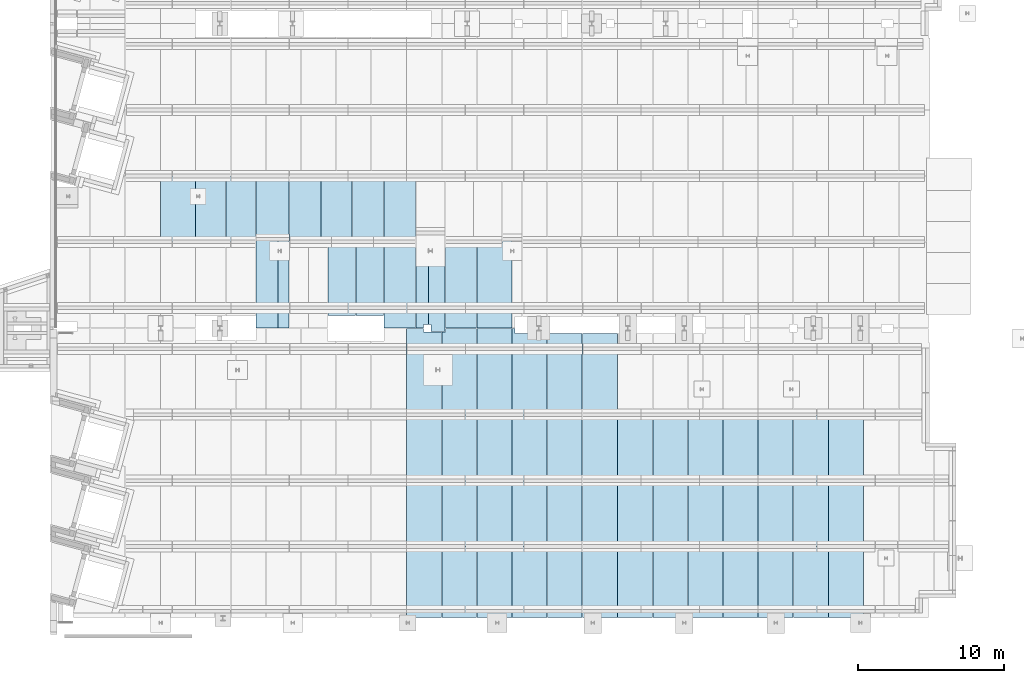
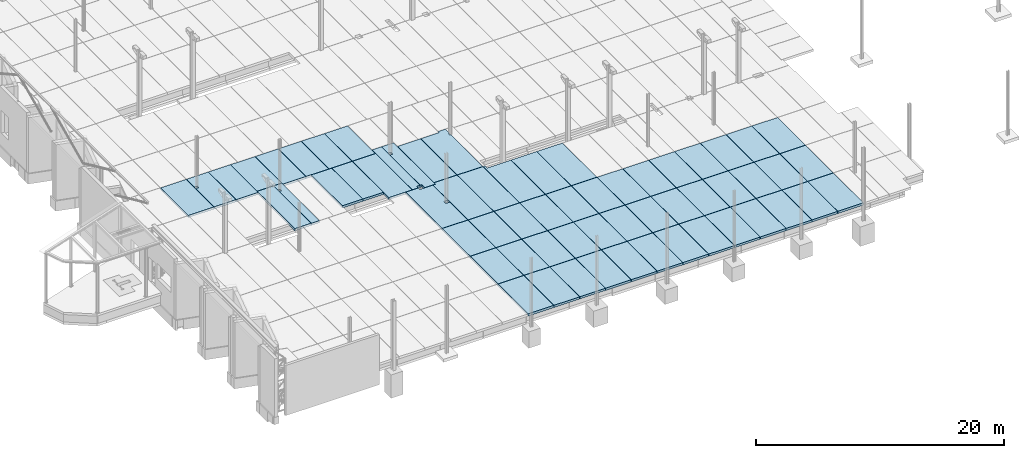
# One storey, part 47 of 59: 62 slabs.
"""IFC2X3 building model written with IfcOpenShell, lengths in metres."""

from ifc_helpers import new_model, entity, si_unit, converted_unit, derived_unit, frame, frame_2d, origin, origin_with_axes, place, context, subcontext, project, spatial, polyline, rectangle, outline, extrude, material, element, save


model = new_model("IFC2X3")

# Units and contexts
model_context = context("Model", 3, precision=1e-05, world=origin())
body_context = subcontext(model_context, "Body", "Model", "MODEL_VIEW")
ifc_project = project(units=[si_unit("LENGTHUNIT", "METRE"), si_unit("AREAUNIT", "SQUARE_METRE"), si_unit("VOLUMEUNIT", "CUBIC_METRE"), si_unit("MASSUNIT", "GRAM", prefix="KILO"), converted_unit("PLANEANGLEUNIT", "DEGREE", entity("IfcPlaneAngleMeasure", 0.0174532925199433), si_unit("PLANEANGLEUNIT", "RADIAN"), dimensions=[0, 0, 0, 0, 0, 0, 0]), derived_unit("THERMALTRANSMITTANCEUNIT", [(si_unit("POWERUNIT", "WATT"), 1), (si_unit("THERMODYNAMICTEMPERATUREUNIT", "KELVIN"), -1), (si_unit("LENGTHUNIT", "METRE"), -2)]), derived_unit("VOLUMETRICFLOWRATEUNIT", [(si_unit("LENGTHUNIT", "METRE"), 3), (converted_unit("TIMEUNIT", "hour", entity("IfcTimeMeasure", 3600.0), si_unit("TIMEUNIT", "SECOND"), dimensions=[0, 0, 1, 0, 0, 0, 0]), -1), (si_unit("LENGTHUNIT", "METRE"), -1)])], contexts=[model_context])

# Site, building, storey
site_placement = place(None, origin())
site = spatial("IfcSite", under=ifc_project, at=site_placement, Name="TWP_Speiseverteilzentrum SBW VZ II", CompositionType="ELEMENT")
building_placement = place(site_placement, origin())
building = spatial("IfcBuilding", under=site, at=building_placement, Name="Speiseverteilzentrum SBW VZ II", CompositionType="ELEMENT")
storey_placement = place(building_placement, frame((0.0, 0.0, 1.7307)))
storey = spatial("IfcBuildingStorey", under=building, at=storey_placement, Name="EG_Produktion_FFB", CompositionType="ELEMENT", Elevation=1.7307)

# Slabs
ifc_material_1 = material(Name="Stahlbetonfertigteil")
slab_1_placement = place(storey_placement, frame((33.5999999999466, 15.9100000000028, -0.47)))
element("IfcSlab", 1, at=slab_1_placement, inside=storey, material=ifc_material_1, Name="Stahlbetonfertigteilplatte", PredefinedType="BASESLAB", context=body_context, shape_type="SweptSolid", body=[
    extrude(rectangle(XDim=4.47999999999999, YDim=2.38, at=frame_2d((1.19, -2.23999999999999), x_axis=(0.0, -1.0))), frame((0.0, 4.47999999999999, 0.0), z_axis=(0.0, 0.0, 1.0), x_axis=(1.0, 0.0, 0.0)), (0.0, 0.0, 1.0), 0.22),
])
ifc_material_2 = material(Name="Stahlbetonfertigteil")
slab_2_placement = place(storey_placement, frame((35.9999999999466, 15.9100000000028, -0.47)))
element("IfcSlab", 2, at=slab_2_placement, inside=storey, material=ifc_material_2, Name="Stahlbetonfertigteilplatte", PredefinedType="BASESLAB", context=body_context, shape_type="SweptSolid", body=[
    extrude(rectangle(XDim=4.47999999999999, YDim=2.38, at=frame_2d((1.19, -2.23999999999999), x_axis=(0.0, -1.0))), frame((0.0, 4.47999999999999, 0.0), z_axis=(0.0, 0.0, 1.0), x_axis=(1.0, 0.0, 0.0)), (0.0, 0.0, 1.0), 0.22),
])
ifc_material_3 = material(Name="Stahlbetonfertigteil")
slab_3_placement = place(storey_placement, frame((33.5999999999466, 20.4100000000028, -0.47)))
element("IfcSlab", 3, at=slab_3_placement, inside=storey, material=ifc_material_3, Name="Stahlbetonfertigteilplatte", PredefinedType="BASESLAB", context=body_context, shape_type="SweptSolid", body=[
    extrude(rectangle(XDim=4.47999999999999, YDim=2.38, at=frame_2d((1.19, -2.23999999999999), x_axis=(0.0, -1.0))), frame((0.0, 4.47999999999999, 0.0), z_axis=(0.0, 0.0, 1.0), x_axis=(1.0, 0.0, 0.0)), (0.0, 0.0, 1.0), 0.22),
])
ifc_material_4 = material(Name="Stahlbetonfertigteil")
slab_4_placement = place(storey_placement, frame((35.9999999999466, 20.4100000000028, -0.47)))
element("IfcSlab", 4, at=slab_4_placement, inside=storey, material=ifc_material_4, Name="Stahlbetonfertigteilplatte", PredefinedType="BASESLAB", context=body_context, shape_type="SweptSolid", body=[
    extrude(rectangle(XDim=4.47999999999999, YDim=2.38, at=frame_2d((1.19, -2.23999999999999), x_axis=(0.0, -1.0))), frame((0.0, 4.47999999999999, 0.0), z_axis=(0.0, 0.0, 1.0), x_axis=(1.0, 0.0, 0.0)), (0.0, 0.0, 1.0), 0.22),
])
ifc_material_5 = material(Name="Stahlbetonfertigteil")
slab_5_placement = place(storey_placement, frame((38.3999999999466, 15.9100000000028, -0.47)))
element("IfcSlab", 5, at=slab_5_placement, inside=storey, material=ifc_material_5, Name="Stahlbetonfertigteilplatte", PredefinedType="BASESLAB", context=body_context, shape_type="SweptSolid", body=[
    extrude(rectangle(XDim=4.47999999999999, YDim=2.38, at=frame_2d((1.19, -2.23999999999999), x_axis=(0.0, -1.0))), frame((0.0, 4.47999999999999, 0.0), z_axis=(0.0, 0.0, 1.0), x_axis=(1.0, 0.0, 0.0)), (0.0, 0.0, 1.0), 0.22),
])
ifc_material_6 = material(Name="Stahlbetonfertigteil")
slab_6_placement = place(storey_placement, frame((40.7999999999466, 15.9100000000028, -0.47)))
element("IfcSlab", 6, at=slab_6_placement, inside=storey, material=ifc_material_6, Name="Stahlbetonfertigteilplatte", PredefinedType="BASESLAB", context=body_context, shape_type="SweptSolid", body=[
    extrude(rectangle(XDim=4.47999999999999, YDim=2.38, at=frame_2d((1.19, -2.23999999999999), x_axis=(0.0, -1.0))), frame((0.0, 4.47999999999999, 0.0), z_axis=(0.0, 0.0, 1.0), x_axis=(1.0, 0.0, 0.0)), (0.0, 0.0, 1.0), 0.22),
])
ifc_material_7 = material(Name="Stahlbetonfertigteil")
slab_7_placement = place(storey_placement, frame((38.3999999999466, 20.4100000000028, -0.47)))
element("IfcSlab", 7, at=slab_7_placement, inside=storey, material=ifc_material_7, Name="Stahlbetonfertigteilplatte", PredefinedType="BASESLAB", context=body_context, shape_type="SweptSolid", body=[
    extrude(rectangle(XDim=4.47999999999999, YDim=2.38, at=frame_2d((1.19, -2.23999999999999), x_axis=(0.0, -1.0))), frame((0.0, 4.47999999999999, 0.0), z_axis=(0.0, 0.0, 1.0), x_axis=(1.0, 0.0, 0.0)), (0.0, 0.0, 1.0), 0.22),
])
ifc_material_8 = material(Name="Stahlbetonfertigteil")
slab_8_placement = place(storey_placement, frame((40.7999999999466, 20.4100000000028, -0.47)))
element("IfcSlab", 8, at=slab_8_placement, inside=storey, material=ifc_material_8, Name="Stahlbetonfertigteilplatte", PredefinedType="BASESLAB", context=body_context, shape_type="SweptSolid", body=[
    extrude(rectangle(XDim=4.47999999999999, YDim=2.38, at=frame_2d((1.19, -2.23999999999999), x_axis=(0.0, -1.0))), frame((0.0, 4.47999999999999, 0.0), z_axis=(0.0, 0.0, 1.0), x_axis=(1.0, 0.0, 0.0)), (0.0, 0.0, 1.0), 0.22),
])
ifc_material_9 = material(Name="Stahlbetonfertigteil")
slab_9_placement = place(storey_placement, frame((43.1999999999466, 15.9100000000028, -0.47)))
element("IfcSlab", 9, at=slab_9_placement, inside=storey, material=ifc_material_9, Name="Stahlbetonfertigteilplatte", PredefinedType="BASESLAB", context=body_context, shape_type="SweptSolid", body=[
    extrude(rectangle(XDim=4.47999999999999, YDim=2.38, at=frame_2d((1.19, -2.23999999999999), x_axis=(0.0, -1.0))), frame((0.0, 4.47999999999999, 0.0), z_axis=(0.0, 0.0, 1.0), x_axis=(1.0, 0.0, 0.0)), (0.0, 0.0, 1.0), 0.22),
])
ifc_material_10 = material(Name="Stahlbetonfertigteil")
slab_10_placement = place(storey_placement, frame((45.5999999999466, 15.9100000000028, -0.47)))
element("IfcSlab", 10, at=slab_10_placement, inside=storey, material=ifc_material_10, Name="Stahlbetonfertigteilplatte", PredefinedType="BASESLAB", context=body_context, shape_type="SweptSolid", body=[
    extrude(rectangle(XDim=4.47999999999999, YDim=2.38, at=frame_2d((1.19, -2.23999999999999), x_axis=(0.0, -1.0))), frame((0.0, 4.47999999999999, 0.0), z_axis=(0.0, 0.0, 1.0), x_axis=(1.0, 0.0, 0.0)), (0.0, 0.0, 1.0), 0.22),
])
ifc_material_11 = material(Name="Stahlbetonfertigteil")
slab_11_placement = place(storey_placement, frame((43.1999999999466, 20.4100000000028, -0.47)))
element("IfcSlab", 11, at=slab_11_placement, inside=storey, material=ifc_material_11, Name="Stahlbetonfertigteilplatte", PredefinedType="BASESLAB", context=body_context, shape_type="SweptSolid", body=[
    extrude(rectangle(XDim=4.47999999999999, YDim=2.38, at=frame_2d((1.19, -2.23999999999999), x_axis=(0.0, -1.0))), frame((0.0, 4.47999999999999, 0.0), z_axis=(0.0, 0.0, 1.0), x_axis=(1.0, 0.0, 0.0)), (0.0, 0.0, 1.0), 0.22),
])
ifc_material_12 = material(Name="Stahlbetonfertigteil")
slab_12_placement = place(storey_placement, frame((45.5999999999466, 20.4100000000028, -0.47)))
element("IfcSlab", 12, at=slab_12_placement, inside=storey, material=ifc_material_12, Name="Stahlbetonfertigteilplatte", PredefinedType="BASESLAB", context=body_context, shape_type="SweptSolid", body=[
    extrude(rectangle(XDim=4.47999999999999, YDim=2.38, at=frame_2d((1.19, -2.23999999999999), x_axis=(0.0, -1.0))), frame((0.0, 4.47999999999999, 0.0), z_axis=(0.0, 0.0, 1.0), x_axis=(1.0, 0.0, 0.0)), (0.0, 0.0, 1.0), 0.22),
])
ifc_material_13 = material(Name="Stahlbetonfertigteil")
slab_13_placement = place(storey_placement, frame((47.9999999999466, 15.9100000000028, -0.47)))
element("IfcSlab", 13, at=slab_13_placement, inside=storey, material=ifc_material_13, Name="Stahlbetonfertigteilplatte", PredefinedType="BASESLAB", context=body_context, shape_type="SweptSolid", body=[
    extrude(rectangle(XDim=4.47999999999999, YDim=2.38, at=frame_2d((1.19, -2.23999999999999), x_axis=(0.0, -1.0))), frame((0.0, 4.47999999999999, 0.0), z_axis=(0.0, 0.0, 1.0), x_axis=(1.0, 0.0, 0.0)), (0.0, 0.0, 1.0), 0.22),
])
ifc_material_14 = material(Name="Stahlbetonfertigteil")
slab_14_placement = place(storey_placement, frame((50.3999999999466, 15.9100000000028, -0.47)))
element("IfcSlab", 14, at=slab_14_placement, inside=storey, material=ifc_material_14, Name="Stahlbetonfertigteilplatte", PredefinedType="BASESLAB", context=body_context, shape_type="SweptSolid", body=[
    extrude(rectangle(XDim=4.47999999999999, YDim=2.38, at=frame_2d((1.19, -2.23999999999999), x_axis=(0.0, -1.0))), frame((0.0, 4.47999999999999, 0.0), z_axis=(0.0, 0.0, 1.0), x_axis=(1.0, 0.0, 0.0)), (0.0, 0.0, 1.0), 0.22),
])
ifc_material_15 = material(Name="Stahlbetonfertigteil")
slab_15_placement = place(storey_placement, frame((52.7999999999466, 15.9100000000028, -0.47)))
element("IfcSlab", 15, at=slab_15_placement, inside=storey, material=ifc_material_15, Name="Stahlbetonfertigteilplatte", PredefinedType="BASESLAB", context=body_context, shape_type="SweptSolid", body=[
    extrude(rectangle(XDim=4.47999999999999, YDim=2.38, at=frame_2d((1.19, -2.23999999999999), x_axis=(0.0, -1.0))), frame((0.0, 4.47999999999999, 0.0), z_axis=(0.0, 0.0, 1.0), x_axis=(1.0, 0.0, 0.0)), (0.0, 0.0, 1.0), 0.22),
])
ifc_material_16 = material(Name="Stahlbetonfertigteil")
slab_16_placement = place(storey_placement, frame((47.9999999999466, 20.4100000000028, -0.47)))
element("IfcSlab", 16, at=slab_16_placement, inside=storey, material=ifc_material_16, Name="Stahlbetonfertigteilplatte", PredefinedType="BASESLAB", context=body_context, shape_type="SweptSolid", body=[
    extrude(rectangle(XDim=4.47999999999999, YDim=2.38, at=frame_2d((1.19, -2.23999999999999), x_axis=(0.0, -1.0))), frame((0.0, 4.47999999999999, 0.0), z_axis=(0.0, 0.0, 1.0), x_axis=(1.0, 0.0, 0.0)), (0.0, 0.0, 1.0), 0.22),
])
ifc_material_17 = material(Name="Stahlbetonfertigteil")
slab_17_placement = place(storey_placement, frame((50.3999999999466, 20.4100000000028, -0.47)))
element("IfcSlab", 17, at=slab_17_placement, inside=storey, material=ifc_material_17, Name="Stahlbetonfertigteilplatte", PredefinedType="BASESLAB", context=body_context, shape_type="SweptSolid", body=[
    extrude(rectangle(XDim=4.47999999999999, YDim=2.38, at=frame_2d((1.19, -2.23999999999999), x_axis=(0.0, -1.0))), frame((0.0, 4.47999999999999, 0.0), z_axis=(0.0, 0.0, 1.0), x_axis=(1.0, 0.0, 0.0)), (0.0, 0.0, 1.0), 0.22),
])
ifc_material_18 = material(Name="Stahlbetonfertigteil")
slab_18_placement = place(storey_placement, frame((52.7999999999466, 20.4100000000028, -0.47)))
element("IfcSlab", 18, at=slab_18_placement, inside=storey, material=ifc_material_18, Name="Stahlbetonfertigteilplatte", PredefinedType="BASESLAB", context=body_context, shape_type="SweptSolid", body=[
    extrude(rectangle(XDim=4.47999999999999, YDim=2.38, at=frame_2d((1.19, -2.23999999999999), x_axis=(0.0, -1.0))), frame((0.0, 4.47999999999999, 0.0), z_axis=(0.0, 0.0, 1.0), x_axis=(1.0, 0.0, 0.0)), (0.0, 0.0, 1.0), 0.22),
])
ifc_material_19 = material(Name="Stahlbetonfertigteil")
slab_19_placement = place(storey_placement, frame((55.1999999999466, 15.9100000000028, -0.47)))
element("IfcSlab", 19, at=slab_19_placement, inside=storey, material=ifc_material_19, Name="Stahlbetonfertigteilplatte", PredefinedType="BASESLAB", context=body_context, shape_type="SweptSolid", body=[
    extrude(rectangle(XDim=4.47999999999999, YDim=2.38, at=frame_2d((1.19, -2.23999999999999), x_axis=(0.0, -1.0))), frame((0.0, 4.47999999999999, 0.0), z_axis=(0.0, 0.0, 1.0), x_axis=(1.0, 0.0, 0.0)), (0.0, 0.0, 1.0), 0.22),
])
ifc_material_20 = material(Name="Stahlbetonfertigteil")
slab_20_placement = place(storey_placement, frame((57.5999999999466, 15.9100000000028, -0.47)))
element("IfcSlab", 20, at=slab_20_placement, inside=storey, material=ifc_material_20, Name="Stahlbetonfertigteilplatte", PredefinedType="BASESLAB", context=body_context, shape_type="SweptSolid", body=[
    extrude(rectangle(XDim=4.47999999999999, YDim=2.38, at=frame_2d((1.19, -2.23999999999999), x_axis=(0.0, -1.0))), frame((0.0, 4.47999999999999, 0.0), z_axis=(0.0, 0.0, 1.0), x_axis=(1.0, 0.0, 0.0)), (0.0, 0.0, 1.0), 0.22),
])
ifc_material_21 = material(Name="Stahlbetonfertigteil")
slab_21_placement = place(storey_placement, frame((55.1999999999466, 20.4100000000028, -0.47)))
element("IfcSlab", 21, at=slab_21_placement, inside=storey, material=ifc_material_21, Name="Stahlbetonfertigteilplatte", PredefinedType="BASESLAB", context=body_context, shape_type="SweptSolid", body=[
    extrude(rectangle(XDim=4.47999999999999, YDim=2.38, at=frame_2d((1.19, -2.23999999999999), x_axis=(0.0, -1.0))), frame((0.0, 4.47999999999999, 0.0), z_axis=(0.0, 0.0, 1.0), x_axis=(1.0, 0.0, 0.0)), (0.0, 0.0, 1.0), 0.22),
])
ifc_material_22 = material(Name="Stahlbetonfertigteil")
slab_22_placement = place(storey_placement, frame((57.5999999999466, 20.4100000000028, -0.47)))
element("IfcSlab", 22, at=slab_22_placement, inside=storey, material=ifc_material_22, Name="Stahlbetonfertigteilplatte", PredefinedType="BASESLAB", context=body_context, shape_type="SweptSolid", body=[
    extrude(rectangle(XDim=4.47999999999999, YDim=2.38, at=frame_2d((1.19, -2.23999999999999), x_axis=(0.0, -1.0))), frame((0.0, 4.47999999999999, 0.0), z_axis=(0.0, 0.0, 1.0), x_axis=(1.0, 0.0, 0.0)), (0.0, 0.0, 1.0), 0.22),
])
ifc_material_23 = material(Name="Stahlbetonfertigteil")
slab_23_placement = place(storey_placement, frame((59.9999999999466, 15.9100000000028, -0.47)))
element("IfcSlab", 23, at=slab_23_placement, inside=storey, material=ifc_material_23, Name="Stahlbetonfertigteilplatte", PredefinedType="BASESLAB", context=body_context, shape_type="SweptSolid", body=[
    extrude(rectangle(XDim=4.47999999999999, YDim=2.38, at=frame_2d((1.19, -2.23999999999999), x_axis=(0.0, -1.0))), frame((0.0, 4.47999999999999, 0.0), z_axis=(0.0, 0.0, 1.0), x_axis=(1.0, 0.0, 0.0)), (0.0, 0.0, 1.0), 0.22),
])
ifc_material_24 = material(Name="Stahlbetonfertigteil")
slab_24_placement = place(storey_placement, frame((62.3999999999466, 15.9100000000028, -0.47)))
element("IfcSlab", 24, at=slab_24_placement, inside=storey, material=ifc_material_24, Name="Stahlbetonfertigteilplatte", PredefinedType="BASESLAB", context=body_context, shape_type="SweptSolid", body=[
    extrude(rectangle(XDim=4.47999999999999, YDim=2.38, at=frame_2d((1.19, -2.23999999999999), x_axis=(0.0, -1.0))), frame((0.0, 4.47999999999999, 0.0), z_axis=(0.0, 0.0, 1.0), x_axis=(1.0, 0.0, 0.0)), (0.0, 0.0, 1.0), 0.22),
])
ifc_material_25 = material(Name="Stahlbetonfertigteil")
slab_25_placement = place(storey_placement, frame((59.9999999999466, 20.4100000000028, -0.47)))
element("IfcSlab", 25, at=slab_25_placement, inside=storey, material=ifc_material_25, Name="Stahlbetonfertigteilplatte", PredefinedType="BASESLAB", context=body_context, shape_type="SweptSolid", body=[
    extrude(rectangle(XDim=4.47999999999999, YDim=2.38, at=frame_2d((1.19, -2.23999999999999), x_axis=(0.0, -1.0))), frame((0.0, 4.47999999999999, 0.0), z_axis=(0.0, 0.0, 1.0), x_axis=(1.0, 0.0, 0.0)), (0.0, 0.0, 1.0), 0.22),
])
ifc_material_26 = material(Name="Stahlbetonfertigteil")
slab_26_placement = place(storey_placement, frame((62.3999999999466, 20.4100000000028, -0.47)))
element("IfcSlab", 26, at=slab_26_placement, inside=storey, material=ifc_material_26, Name="Stahlbetonfertigteilplatte", PredefinedType="BASESLAB", context=body_context, shape_type="SweptSolid", body=[
    extrude(rectangle(XDim=4.47999999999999, YDim=2.38, at=frame_2d((1.19, -2.23999999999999), x_axis=(0.0, -1.0))), frame((0.0, 4.47999999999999, 0.0), z_axis=(0.0, 0.0, 1.0), x_axis=(1.0, 0.0, 0.0)), (0.0, 0.0, 1.0), 0.22),
])
ifc_material_27 = material(Name="Stahlbetonfertigteil")
slab_27_placement = place(storey_placement, frame((16.7999999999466, 36.7100000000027, -0.47)))
element("IfcSlab", 27, at=slab_27_placement, inside=storey, material=ifc_material_27, Name="Stahlbetonfertigteilplatte", PredefinedType="BASESLAB", context=body_context, shape_type="SweptSolid", body=[
    extrude(rectangle(XDim=4.47999999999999, YDim=2.38, at=frame_2d((1.19, -2.23999999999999), x_axis=(0.0, -1.0))), frame((0.0, 4.47999999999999, 0.0), z_axis=(0.0, 0.0, 1.0), x_axis=(1.0, 0.0, 0.0)), (0.0, 0.0, 1.0), 0.22),
])
ifc_material_28 = material(Name="Stahlbetonfertigteil")
slab_28_placement = place(storey_placement, frame((43.1999999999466, 24.9100000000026, -0.47)))
element("IfcSlab", 28, at=slab_28_placement, inside=storey, material=ifc_material_28, Name="Stahlbetonfertigteilplatte", PredefinedType="BASESLAB", context=body_context, shape_type="SweptSolid", body=[
    extrude(rectangle(XDim=5.53999999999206, YDim=2.38, at=frame_2d((1.19, -2.76999999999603), x_axis=(0.0, -1.0))), frame((0.0, 5.53999999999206, 0.0), z_axis=(0.0, 0.0, 1.0), x_axis=(1.0, 0.0, 0.0)), (0.0, 0.0, 1.0), 0.22),
])
ifc_material_29 = material(Name="Stahlbetonfertigteil")
slab_29_placement = place(storey_placement, frame((45.5999999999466, 24.9100000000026, -0.47)))
element("IfcSlab", 29, at=slab_29_placement, inside=storey, material=ifc_material_29, Name="Stahlbetonfertigteilplatte", PredefinedType="BASESLAB", context=body_context, shape_type="SweptSolid", body=[
    extrude(rectangle(XDim=5.53999999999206, YDim=2.38, at=frame_2d((1.19, -2.76999999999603), x_axis=(0.0, -1.0))), frame((0.0, 5.53999999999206, 0.0), z_axis=(0.0, 0.0, 1.0), x_axis=(1.0, 0.0, 0.0)), (0.0, 0.0, 1.0), 0.22),
])
ifc_material_30 = material(Name="Stahlbetonfertigteil")
slab_30_placement = place(storey_placement, frame((40.7999999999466, 24.9100000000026, -0.47)))
element("IfcSlab", 30, at=slab_30_placement, inside=storey, material=ifc_material_30, Name="Stahlbetonfertigteilplatte", PredefinedType="BASESLAB", context=body_context, shape_type="SweptSolid", body=[
    extrude(outline(polyline([(0.200000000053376, 5.87999999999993), (0.0, 5.87999999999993), (0.0, 0.0), (2.38, 0.0), (2.38, 5.53999999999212), (0.200000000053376, 5.53999999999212), (0.200000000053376, 5.87999999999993)])), origin_with_axes(), (0.0, 0.0, 1.0), 0.22),
])
ifc_material_31 = material(Name="Stahlbetonfertigteil")
slab_31_placement = place(storey_placement, frame((38.3999999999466, 24.9100000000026, -0.47)))
element("IfcSlab", 31, at=slab_31_placement, inside=storey, material=ifc_material_31, Name="Stahlbetonfertigteilplatte", PredefinedType="BASESLAB", context=body_context, shape_type="SweptSolid", body=[
    extrude(rectangle(XDim=5.87999999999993, YDim=2.38, at=frame_2d((1.19, -2.93999999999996), x_axis=(0.0, -1.0))), frame((0.0, 5.87999999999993, 0.0), z_axis=(0.0, 0.0, 1.0), x_axis=(1.0, 0.0, 0.0)), (0.0, 0.0, 1.0), 0.22),
])
ifc_material_32 = material(Name="Stahlbetonfertigteil")
slab_32_placement = place(storey_placement, frame((52.7999999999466, 11.0500000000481, -0.47)))
element("IfcSlab", 32, at=slab_32_placement, inside=storey, material=ifc_material_32, Name="Stahlbetonfertigteilplatte", PredefinedType="BASESLAB", context=body_context, shape_type="SweptSolid", body=[
    extrude(rectangle(XDim=4.83999999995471, YDim=2.38, at=frame_2d((1.19, -2.41999999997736), x_axis=(0.0, -1.0))), frame((0.0, 4.83999999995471, 0.0), z_axis=(0.0, 0.0, 1.0), x_axis=(1.0, 0.0, 0.0)), (0.0, 0.0, 1.0), 0.22),
])
ifc_material_33 = material(Name="Stahlbetonfertigteil")
slab_33_placement = place(storey_placement, frame((50.3999999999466, 11.0500000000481, -0.47)))
element("IfcSlab", 33, at=slab_33_placement, inside=storey, material=ifc_material_33, Name="Stahlbetonfertigteilplatte", PredefinedType="BASESLAB", context=body_context, shape_type="SweptSolid", body=[
    extrude(rectangle(XDim=4.83999999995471, YDim=2.38, at=frame_2d((1.19, -2.41999999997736), x_axis=(0.0, -1.0))), frame((0.0, 4.83999999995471, 0.0), z_axis=(0.0, 0.0, 1.0), x_axis=(1.0, 0.0, 0.0)), (0.0, 0.0, 1.0), 0.22),
])
ifc_material_34 = material(Name="Stahlbetonfertigteil")
slab_34_placement = place(storey_placement, frame((47.9999999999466, 11.0500000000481, -0.47)))
element("IfcSlab", 34, at=slab_34_placement, inside=storey, material=ifc_material_34, Name="Stahlbetonfertigteilplatte", PredefinedType="BASESLAB", context=body_context, shape_type="SweptSolid", body=[
    extrude(rectangle(XDim=4.83999999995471, YDim=2.38, at=frame_2d((1.19, -2.41999999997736), x_axis=(0.0, -1.0))), frame((0.0, 4.83999999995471, 0.0), z_axis=(0.0, 0.0, 1.0), x_axis=(1.0, 0.0, 0.0)), (0.0, 0.0, 1.0), 0.22),
])
ifc_material_35 = material(Name="Stahlbetonfertigteil")
slab_35_placement = place(storey_placement, frame((45.5999999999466, 11.0500000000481, -0.47)))
element("IfcSlab", 35, at=slab_35_placement, inside=storey, material=ifc_material_35, Name="Stahlbetonfertigteilplatte", PredefinedType="BASESLAB", context=body_context, shape_type="SweptSolid", body=[
    extrude(rectangle(XDim=4.83999999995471, YDim=2.38, at=frame_2d((1.19, -2.41999999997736), x_axis=(0.0, -1.0))), frame((0.0, 4.83999999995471, 0.0), z_axis=(0.0, 0.0, 1.0), x_axis=(1.0, 0.0, 0.0)), (0.0, 0.0, 1.0), 0.22),
])
ifc_material_36 = material(Name="Stahlbetonfertigteil")
slab_36_placement = place(storey_placement, frame((43.1999999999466, 11.0500000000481, -0.47)))
element("IfcSlab", 36, at=slab_36_placement, inside=storey, material=ifc_material_36, Name="Stahlbetonfertigteilplatte", PredefinedType="BASESLAB", context=body_context, shape_type="SweptSolid", body=[
    extrude(rectangle(XDim=4.83999999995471, YDim=2.38, at=frame_2d((1.19, -2.41999999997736), x_axis=(0.0, -1.0))), frame((0.0, 4.83999999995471, 0.0), z_axis=(0.0, 0.0, 1.0), x_axis=(1.0, 0.0, 0.0)), (0.0, 0.0, 1.0), 0.22),
])
ifc_material_37 = material(Name="Stahlbetonfertigteil")
slab_37_placement = place(storey_placement, frame((40.7999999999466, 11.0500000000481, -0.47)))
element("IfcSlab", 37, at=slab_37_placement, inside=storey, material=ifc_material_37, Name="Stahlbetonfertigteilplatte", PredefinedType="BASESLAB", context=body_context, shape_type="SweptSolid", body=[
    extrude(rectangle(XDim=4.83999999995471, YDim=2.38, at=frame_2d((1.19, -2.41999999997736), x_axis=(0.0, -1.0))), frame((0.0, 4.83999999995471, 0.0), z_axis=(0.0, 0.0, 1.0), x_axis=(1.0, 0.0, 0.0)), (0.0, 0.0, 1.0), 0.22),
])
ifc_material_38 = material(Name="Stahlbetonfertigteil")
slab_38_placement = place(storey_placement, frame((38.3999999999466, 11.0500000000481, -0.47)))
element("IfcSlab", 38, at=slab_38_placement, inside=storey, material=ifc_material_38, Name="Stahlbetonfertigteilplatte", PredefinedType="BASESLAB", context=body_context, shape_type="SweptSolid", body=[
    extrude(rectangle(XDim=4.83999999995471, YDim=2.38, at=frame_2d((1.19, -2.41999999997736), x_axis=(0.0, -1.0))), frame((0.0, 4.83999999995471, 0.0), z_axis=(0.0, 0.0, 1.0), x_axis=(1.0, 0.0, 0.0)), (0.0, 0.0, 1.0), 0.22),
])
ifc_material_39 = material(Name="Stahlbetonfertigteil")
slab_39_placement = place(storey_placement, frame((35.9999999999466, 11.0500000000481, -0.47)))
element("IfcSlab", 39, at=slab_39_placement, inside=storey, material=ifc_material_39, Name="Stahlbetonfertigteilplatte", PredefinedType="BASESLAB", context=body_context, shape_type="SweptSolid", body=[
    extrude(rectangle(XDim=4.83999999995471, YDim=2.38, at=frame_2d((1.19, -2.41999999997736), x_axis=(0.0, -1.0))), frame((0.0, 4.83999999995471, 0.0), z_axis=(0.0, 0.0, 1.0), x_axis=(1.0, 0.0, 0.0)), (0.0, 0.0, 1.0), 0.22),
])
ifc_material_40 = material(Name="Stahlbetonfertigteil")
slab_40_placement = place(storey_placement, frame((33.5999999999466, 11.0500000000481, -0.47)))
element("IfcSlab", 40, at=slab_40_placement, inside=storey, material=ifc_material_40, Name="Stahlbetonfertigteilplatte", PredefinedType="BASESLAB", context=body_context, shape_type="SweptSolid", body=[
    extrude(rectangle(XDim=4.83999999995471, YDim=2.38, at=frame_2d((1.19, -2.41999999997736), x_axis=(0.0, -1.0))), frame((0.0, 4.83999999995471, 0.0), z_axis=(0.0, 0.0, 1.0), x_axis=(1.0, 0.0, 0.0)), (0.0, 0.0, 1.0), 0.22),
])
ifc_material_41 = material(Name="Stahlbetonfertigteil")
slab_41_placement = place(storey_placement, frame((62.3999999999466, 11.0500000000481, -0.47)))
element("IfcSlab", 41, at=slab_41_placement, inside=storey, material=ifc_material_41, Name="Stahlbetonfertigteilplatte", PredefinedType="BASESLAB", context=body_context, shape_type="SweptSolid", body=[
    extrude(rectangle(XDim=4.83999999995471, YDim=2.38, at=frame_2d((1.19, -2.41999999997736), x_axis=(0.0, -1.0))), frame((0.0, 4.83999999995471, 0.0), z_axis=(0.0, 0.0, 1.0), x_axis=(1.0, 0.0, 0.0)), (0.0, 0.0, 1.0), 0.22),
])
ifc_material_42 = material(Name="Stahlbetonfertigteil")
slab_42_placement = place(storey_placement, frame((59.9999999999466, 11.0500000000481, -0.47)))
element("IfcSlab", 42, at=slab_42_placement, inside=storey, material=ifc_material_42, Name="Stahlbetonfertigteilplatte", PredefinedType="BASESLAB", context=body_context, shape_type="SweptSolid", body=[
    extrude(rectangle(XDim=4.83999999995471, YDim=2.38, at=frame_2d((1.19, -2.41999999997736), x_axis=(0.0, -1.0))), frame((0.0, 4.83999999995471, 0.0), z_axis=(0.0, 0.0, 1.0), x_axis=(1.0, 0.0, 0.0)), (0.0, 0.0, 1.0), 0.22),
])
ifc_material_43 = material(Name="Stahlbetonfertigteil")
slab_43_placement = place(storey_placement, frame((57.5999999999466, 11.0500000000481, -0.47)))
element("IfcSlab", 43, at=slab_43_placement, inside=storey, material=ifc_material_43, Name="Stahlbetonfertigteilplatte", PredefinedType="BASESLAB", context=body_context, shape_type="SweptSolid", body=[
    extrude(rectangle(XDim=4.83999999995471, YDim=2.38, at=frame_2d((1.19, -2.41999999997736), x_axis=(0.0, -1.0))), frame((0.0, 4.83999999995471, 0.0), z_axis=(0.0, 0.0, 1.0), x_axis=(1.0, 0.0, 0.0)), (0.0, 0.0, 1.0), 0.22),
])
ifc_material_44 = material(Name="Stahlbetonfertigteil")
slab_44_placement = place(storey_placement, frame((55.1999999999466, 11.0500000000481, -0.47)))
element("IfcSlab", 44, at=slab_44_placement, inside=storey, material=ifc_material_44, Name="Stahlbetonfertigteilplatte", PredefinedType="BASESLAB", context=body_context, shape_type="SweptSolid", body=[
    extrude(rectangle(XDim=4.83999999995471, YDim=2.38, at=frame_2d((1.19, -2.41999999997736), x_axis=(0.0, -1.0))), frame((0.0, 4.83999999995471, 0.0), z_axis=(0.0, 0.0, 1.0), x_axis=(1.0, 0.0, 0.0)), (0.0, 0.0, 1.0), 0.22),
])
ifc_material_45 = material(Name="Stahlbetonfertigteil")
slab_45_placement = place(storey_placement, frame((33.5999999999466, 24.9100000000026, -0.47)))
element("IfcSlab", 45, at=slab_45_placement, inside=storey, material=ifc_material_45, Name="Stahlbetonfertigteilplatte", PredefinedType="BASESLAB", context=body_context, shape_type="SweptSolid", body=[
    extrude(outline(polyline([(1.97975651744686, 3.20992869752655), (2.38, 3.20992869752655), (2.38, 5.63999999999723), (1.15000000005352, 5.63999999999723), (1.15000000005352, 5.87999999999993), (0.0, 5.87999999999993), (0.0, 0.0), (2.38, 0.0), (2.38, 2.88992869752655), (1.97975651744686, 2.88992869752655), (1.97975651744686, 3.20992869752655)])), origin_with_axes(), (0.0, 0.0, 1.0), 0.22),
])
ifc_material_46 = material(Name="Stahlbetonfertigteil")
slab_46_placement = place(storey_placement, frame((28.22, 31.6772526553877, -0.47)))
element("IfcSlab", 46, at=slab_46_placement, inside=storey, material=ifc_material_46, Name="Stahlbetonfertigteilplatte", PredefinedType="BASESLAB", context=body_context, shape_type="SweptSolid", body=[
    extrude(rectangle(XDim=5.0127473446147, YDim=1.89500000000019, at=frame_2d((-0.947500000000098, 2.50637367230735), x_axis=(0.0, 1.0))), frame((1.89500000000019, 0.0, 0.0), z_axis=(0.0, 0.0, 1.0), x_axis=(1.0, 0.0, 0.0)), (0.0, 0.0, 1.0), 0.22),
])
ifc_material_47 = material(Name="Stahlbetonfertigteil")
slab_47_placement = place(storey_placement, frame((30.1350000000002, 31.6772526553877, -0.47)))
element("IfcSlab", 47, at=slab_47_placement, inside=storey, material=ifc_material_47, Name="Stahlbetonfertigteilplatte", PredefinedType="BASESLAB", context=body_context, shape_type="SweptSolid", body=[
    extrude(rectangle(XDim=5.0127473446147, YDim=1.89500000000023, at=frame_2d((0.947500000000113, -2.50637367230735), x_axis=(0.0, -1.0))), frame((0.0, 5.0127473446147, 0.0), z_axis=(0.0, 0.0, 1.0), x_axis=(1.0, 0.0, 0.0)), (0.0, 0.0, 1.0), 0.22),
])
ifc_material_48 = material(Name="Stahlbetonfertigteil")
slab_48_placement = place(storey_placement, frame((24.8298606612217, 30.8100000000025, -0.47)))
element("IfcSlab", 48, at=slab_48_placement, inside=storey, material=ifc_material_48, Name="Stahlbetonfertigteilplatte", PredefinedType="BASESLAB", context=body_context, shape_type="SweptSolid", body=[
    extrude(outline(polyline([(0.0, 0.0), (0.750139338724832, 0.0), (0.750139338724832, 6.05484785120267), (0.0, 6.05484785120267), (0.0, 5.38984785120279), (0.21, 5.38984785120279), (0.21, 5.14984785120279), (0.0, 5.14984785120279), (0.0, 0.0)])), origin_with_axes(), (0.0, 0.0, 1.0), 0.22),
])
ifc_material_49 = material(Name="Stahlbetonfertigteil")
slab_49_placement = place(storey_placement, frame((23.3011877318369, 36.8848478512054, -0.47)))
element("IfcSlab", 49, at=slab_49_placement, inside=storey, material=ifc_material_49, Name="Stahlbetonfertigteilplatte", PredefinedType="BASESLAB", context=body_context, shape_type="SweptSolid", body=[
    extrude(rectangle(XDim=4.30515214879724, YDim=2.2788122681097, at=frame_2d((1.13940613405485, -2.15257607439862), x_axis=(0.0, -1.0))), frame((0.0, 4.30515214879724, 0.0), z_axis=(0.0, 0.0, 1.0), x_axis=(1.0, 0.0, 0.0)), (0.0, 0.0, 1.0), 0.22),
])
ifc_material_50 = material(Name="Stahlbetonfertigteil")
slab_50_placement = place(storey_placement, frame((23.3011877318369, 30.8100000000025, -0.47)))
element("IfcSlab", 50, at=slab_50_placement, inside=storey, material=ifc_material_50, Name="Stahlbetonfertigteilplatte", PredefinedType="BASESLAB", context=body_context, shape_type="SweptSolid", body=[
    extrude(rectangle(XDim=6.05484785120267, YDim=1.50867292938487, at=frame_2d((0.754336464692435, -3.02742392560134), x_axis=(0.0, -1.0))), frame((0.0, 6.05484785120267, 0.0), z_axis=(0.0, 0.0, 1.0), x_axis=(1.0, 0.0, 0.0)), (0.0, 0.0, 1.0), 0.22),
])
ifc_material_51 = material(Name="Stahlbetonfertigteil")
slab_51_placement = place(storey_placement, frame((21.2505938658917, 36.7100000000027, -0.47)))
element("IfcSlab", 51, at=slab_51_placement, inside=storey, material=ifc_material_51, Name="Stahlbetonfertigteilplatte", PredefinedType="BASESLAB", context=body_context, shape_type="SweptSolid", body=[
    extrude(rectangle(XDim=4.47999999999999, YDim=2.03059386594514, at=frame_2d((1.01529693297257, -2.23999999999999), x_axis=(0.0, -1.0))), frame((0.0, 4.47999999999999, 0.0), z_axis=(0.0, 0.0, 1.0), x_axis=(1.0, 0.0, 0.0)), (0.0, 0.0, 1.0), 0.22),
])
ifc_material_52 = material(Name="Stahlbetonfertigteil")
slab_52_placement = place(storey_placement, frame((19.1999999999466, 36.7100000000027, -0.47)))
element("IfcSlab", 52, at=slab_52_placement, inside=storey, material=ifc_material_52, Name="Stahlbetonfertigteilplatte", PredefinedType="BASESLAB", context=body_context, shape_type="SweptSolid", body=[
    extrude(outline(polyline([(0.0, 3.2098118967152), (0.279913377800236, 3.2098118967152), (0.279913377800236, 2.9698118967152), (0.0, 2.9698118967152), (0.0, 0.0), (2.03059386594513, 0.0), (2.03059386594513, 4.47999999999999), (0.0, 4.47999999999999), (0.0, 3.2098118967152)])), origin_with_axes(), (0.0, 0.0, 1.0), 0.22),
])
ifc_material_53 = material(Name="Stahlbetonfertigteil")
slab_53_placement = place(storey_placement, frame((34.2247583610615, 30.8100000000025, -0.47)))
element("IfcSlab", 53, at=slab_53_placement, inside=storey, material=ifc_material_53, Name="Stahlbetonfertigteilplatte", PredefinedType="BASESLAB", context=body_context, shape_type="SweptSolid", body=[
    extrude(outline(polyline([(0.855, 6.47984785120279), (0.0, 6.47984785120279), (0.0, 0.0), (0.52524163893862, 0.0), (0.52524163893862, 0.239999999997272), (0.855, 0.239999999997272), (0.855, 6.47984785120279)])), origin_with_axes(), (0.0, 0.0, 1.0), 0.22),
])
ifc_material_54 = material(Name="Stahlbetonfertigteil")
slab_54_placement = place(storey_placement, frame((32.0500000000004, 30.8100000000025, -0.47)))
element("IfcSlab", 54, at=slab_54_placement, inside=storey, material=ifc_material_54, Name="Stahlbetonfertigteilplatte", PredefinedType="BASESLAB", context=body_context, shape_type="SweptSolid", body=[
    extrude(rectangle(XDim=5.87999999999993, YDim=2.15475836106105, at=frame_2d((-1.07737918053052, 2.93999999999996), x_axis=(0.0, 1.0))), frame((2.15475836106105, 0.0, 0.0), z_axis=(0.0, 0.0, 1.0), x_axis=(1.0, 0.0, 0.0)), (0.0, 0.0, 1.0), 0.22),
])
ifc_material_55 = material(Name="Stahlbetonfertigteil")
slab_55_placement = place(storey_placement, frame((25.5999999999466, 36.7100000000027, -0.47)))
element("IfcSlab", 55, at=slab_55_placement, inside=storey, material=ifc_material_55, Name="Stahlbetonfertigteilplatte", PredefinedType="BASESLAB", context=body_context, shape_type="SweptSolid", body=[
    extrude(rectangle(XDim=4.47999999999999, YDim=2.13500000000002, at=frame_2d((1.06750000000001, -2.23999999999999), x_axis=(0.0, -1.0))), frame((0.0, 4.47999999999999, 0.0), z_axis=(0.0, 0.0, 1.0), x_axis=(1.0, 0.0, 0.0)), (0.0, 0.0, 1.0), 0.22),
])
ifc_material_56 = material(Name="Stahlbetonfertigteil")
slab_56_placement = place(storey_placement, frame((27.7549999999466, 36.7100000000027, -0.47)))
element("IfcSlab", 56, at=slab_56_placement, inside=storey, material=ifc_material_56, Name="Stahlbetonfertigteilplatte", PredefinedType="BASESLAB", context=body_context, shape_type="SweptSolid", body=[
    extrude(rectangle(XDim=4.47999999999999, YDim=2.115, at=frame_2d((1.0575, -2.23999999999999), x_axis=(0.0, -1.0))), frame((0.0, 4.47999999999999, 0.0), z_axis=(0.0, 0.0, 1.0), x_axis=(1.0, 0.0, 0.0)), (0.0, 0.0, 1.0), 0.22),
])
ifc_material_57 = material(Name="Stahlbetonfertigteil")
slab_57_placement = place(storey_placement, frame((29.8899999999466, 36.7100000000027, -0.47)))
element("IfcSlab", 57, at=slab_57_placement, inside=storey, material=ifc_material_57, Name="Stahlbetonfertigteilplatte", PredefinedType="BASESLAB", context=body_context, shape_type="SweptSolid", body=[
    extrude(rectangle(XDim=4.47999999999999, YDim=2.135, at=frame_2d((1.0675, -2.23999999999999), x_axis=(0.0, -1.0))), frame((0.0, 4.47999999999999, 0.0), z_axis=(0.0, 0.0, 1.0), x_axis=(1.0, 0.0, 0.0)), (0.0, 0.0, 1.0), 0.22),
])
ifc_material_58 = material(Name="Stahlbetonfertigteil")
slab_58_placement = place(storey_placement, frame((32.0449999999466, 36.7100000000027, -0.47)))
element("IfcSlab", 58, at=slab_58_placement, inside=storey, material=ifc_material_58, Name="Stahlbetonfertigteilplatte", PredefinedType="BASESLAB", context=body_context, shape_type="SweptSolid", body=[
    extrude(rectangle(XDim=4.47999999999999, YDim=2.1597583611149, at=frame_2d((1.07987918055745, -2.23999999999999), x_axis=(0.0, -1.0))), frame((0.0, 4.47999999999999, 0.0), z_axis=(0.0, 0.0, 1.0), x_axis=(1.0, 0.0, 0.0)), (0.0, 0.0, 1.0), 0.22),
])
ifc_material_59 = material(Name="Stahlbetonfertigteil")
slab_59_placement = place(storey_placement, frame((35.0997583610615, 30.5699999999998, -0.47)))
element("IfcSlab", 59, at=slab_59_placement, inside=storey, material=ifc_material_59, Name="Stahlbetonfertigteilplatte", PredefinedType="BASESLAB", context=body_context, shape_type="SweptSolid", body=[
    extrude(outline(polyline([(0.0, 6.71984785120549), (0.0, 5.65984785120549), (0.27, 5.65984785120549), (0.27, 5.35984785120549), (0.0, 5.35984785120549), (0.0, 0.479999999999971), (0.150241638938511, 0.479999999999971), (0.150241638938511, 0.0), (1.125, 0.0), (1.125, 6.71984785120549), (0.0, 6.71984785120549)])), origin_with_axes(), (0.0, 0.0, 1.0), 0.22),
])
ifc_material_60 = material(Name="Stahlbetonfertigteil")
slab_60_placement = place(storey_placement, frame((35.9999999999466, 24.9100000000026, -0.47)))
element("IfcSlab", 60, at=slab_60_placement, inside=storey, material=ifc_material_60, Name="Stahlbetonfertigteilplatte", PredefinedType="BASESLAB", context=body_context, shape_type="SweptSolid", body=[
    extrude(outline(polyline([(0.244758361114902, 5.63999999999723), (0.0, 5.63999999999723), (0.0, 0.0), (2.38, 0.0), (2.38, 5.87999999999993), (0.244758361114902, 5.87999999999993), (0.244758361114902, 5.63999999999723)])), origin_with_axes(), (0.0, 0.0, 1.0), 0.22),
])
ifc_material_61 = material(Name="Stahlbetonfertigteil")
slab_61_placement = place(storey_placement, frame((36.2447583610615, 30.8100000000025, -0.47)))
element("IfcSlab", 61, at=slab_61_placement, inside=storey, material=ifc_material_61, Name="Stahlbetonfertigteilplatte", PredefinedType="BASESLAB", context=body_context, shape_type="SweptSolid", body=[
    extrude(rectangle(XDim=5.87999999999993, YDim=2.1352416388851, at=frame_2d((1.06762081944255, -2.93999999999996), x_axis=(0.0, -1.0))), frame((0.0, 5.87999999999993, 0.0), z_axis=(0.0, 0.0, 1.0), x_axis=(1.0, 0.0, 0.0)), (0.0, 0.0, 1.0), 0.22),
])
ifc_material_62 = material(Name="Stahlbetonfertigteil")
slab_62_placement = place(storey_placement, frame((38.3999999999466, 30.8100000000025, -0.47)))
element("IfcSlab", 62, at=slab_62_placement, inside=storey, material=ifc_material_62, Name="Stahlbetonfertigteilplatte", PredefinedType="BASESLAB", context=body_context, shape_type="SweptSolid", body=[
    extrude(outline(polyline([(2.38, 5.38984785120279), (2.38, 6.05484785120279), (1.72970408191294, 6.05484785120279), (1.72970408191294, 5.87999999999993), (0.0, 5.87999999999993), (0.0, 0.0), (2.38, 0.0), (2.38, 5.14984785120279), (2.28970408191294, 5.14984785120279), (2.28970408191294, 5.38984785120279), (2.38, 5.38984785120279)])), origin_with_axes(), (0.0, 0.0, 1.0), 0.22),
])

save(model, "model.ifc")
